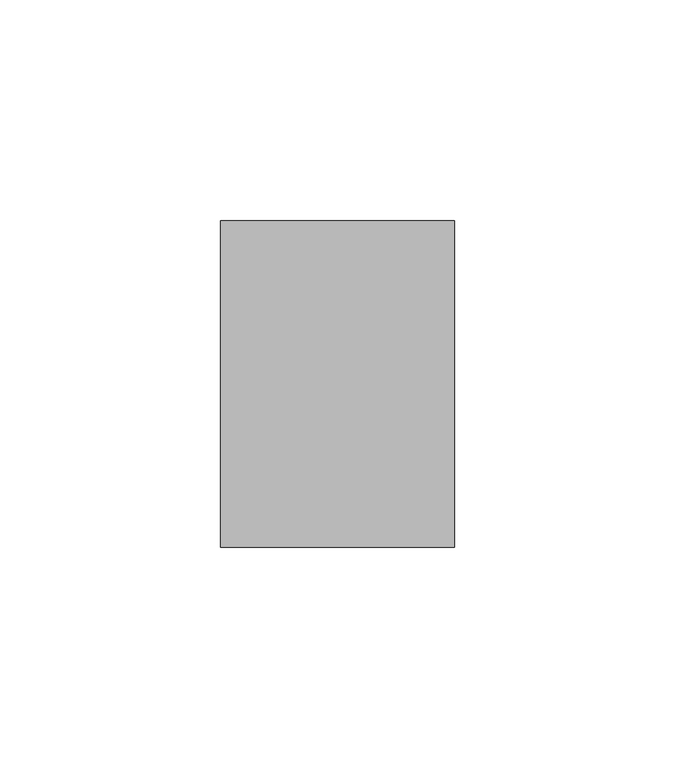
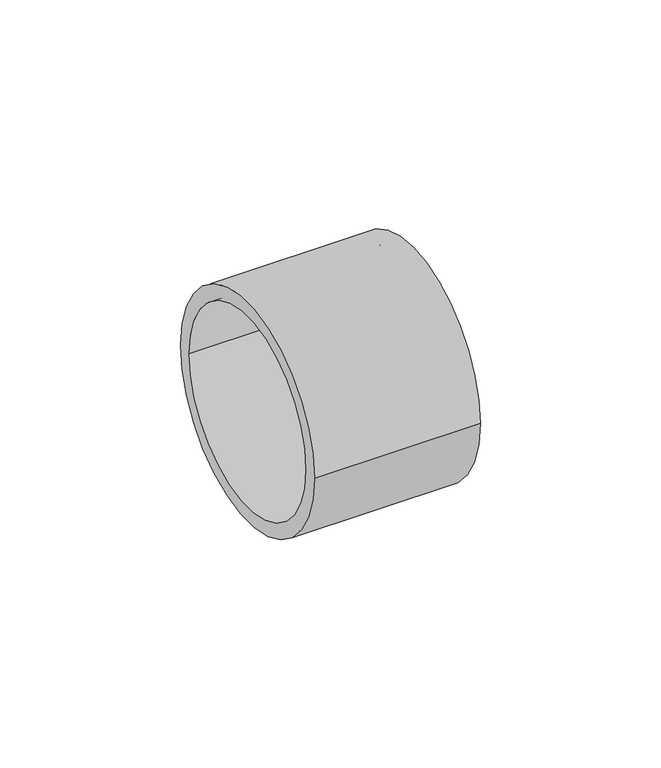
"""IFC4 building model written with IfcOpenShell, lengths in millimetres: pipe fitting geometry, RAUTITAN_Sleeve SDR 7,4 : RTI S SDR 7,4."""

import ifcopenshell
import ifcopenshell.guid

model = None  # the IFC model being written
_history = None  # IfcOwnerHistory: only IFC2X3 demands one
_inside = {}  # id of a spatial element -> (the spatial element, [elements in it])
_under = {}  # id of a project, library or spatial element -> (it, [spatial elements below it])
_declared = {}  # id of a project -> (the project, [libraries it declares])
_typed = {}  # id of a type object -> (the type object, [elements of that type])
_made_of = {}  # id of a material, layer set ... -> (it, [elements and type objects made of it])


def new_model(schema):
    """Start an empty IFC model of exactly this schema.

    Asked for "IFC4X3", IfcOpenShell would pick the latest addendum, in which some entities
    have other attributes; the version numbers below select the first issue.
    IFC2X3 requires an IfcOwnerHistory on every rooted entity: one is made here for all.
    """
    global model, _history
    if schema == "IFC4X3":
        model = ifcopenshell.file(schema_version=(4, 3, 0, 0))
    else:
        model = ifcopenshell.file(schema=schema)
    _inside.clear()
    _under.clear()
    _declared.clear()
    _typed.clear()
    _made_of.clear()
    _history = None
    if model.schema == "IFC2X3":
        org = make("IfcOrganization", Name="unknown")
        user = make(
            "IfcPersonAndOrganization",
            ThePerson=make("IfcPerson", FamilyName="unknown"),
            TheOrganization=org,
        )
        app = make(
            "IfcApplication",
            ApplicationDeveloper=org,
            Version="unknown",
            ApplicationFullName="unknown",
            ApplicationIdentifier="unknown",
        )
        _history = make(
            "IfcOwnerHistory",
            OwningUser=user,
            OwningApplication=app,
            ChangeAction="ADDED",
            CreationDate=0,
        )
    return model


def make(cls, **values):
    """One entity of the class cls with the attributes given. An attribute that is None is left unset."""
    return model.create_entity(
        cls, **{name: value for name, value in values.items() if value is not None}
    )


def rooted(cls, **values):
    """An entity with a GlobalId (a new one), such as an element, a storey or a relation."""
    return make(cls, GlobalId=ifcopenshell.guid.new(), OwnerHistory=_history, **values)


def si_unit(unit_type, name, prefix=None):
    """IfcSIUnit, for example si_unit("LENGTHUNIT", "METRE", prefix="MILLI")."""
    return make("IfcSIUnit", UnitType=unit_type, Prefix=prefix, Name=name)


def assignment(units):
    """IfcUnitAssignment: the units of a project."""
    return None if units is None else make("IfcUnitAssignment", Units=units)


def point(xyz):
    """IfcCartesianPoint."""
    return None if xyz is None else make("IfcCartesianPoint", Coordinates=xyz)


def direction(xyz):
    """IfcDirection."""
    return None if xyz is None else make("IfcDirection", DirectionRatios=xyz)


def frame(location, z_axis=None, x_axis=None):
    """IfcAxis2Placement3D, a coordinate frame: its origin and axes. An axis left out is left unset."""
    return make(
        "IfcAxis2Placement3D",
        Location=point(location),
        Axis=direction(z_axis),
        RefDirection=direction(x_axis),
    )


def frame_2d(location, x_axis=None):
    """IfcAxis2Placement2D, a coordinate frame in the plane: its origin and x axis."""
    return make(
        "IfcAxis2Placement2D", Location=point(location), RefDirection=direction(x_axis)
    )


def origin():
    """The frame at (0, 0, 0) with its axes left unset."""
    return frame((0.0, 0.0, 0.0))


def origin_2d():
    """The frame at (0, 0) in the plane with its x axis left unset."""
    return frame_2d((0.0, 0.0))


def place(relative_to, where):
    """IfcLocalPlacement: puts the frame where relative to a parent placement (None: the world)."""
    return make(
        "IfcLocalPlacement", PlacementRelTo=relative_to, RelativePlacement=where
    )


def context(
    kind, dimensions, precision=None, world=None, true_north=None, identifier=None
):
    """IfcGeometricRepresentationContext, for example the 3D "Model" context."""
    return make(
        "IfcGeometricRepresentationContext",
        ContextIdentifier=identifier,
        ContextType=kind,
        CoordinateSpaceDimension=dimensions,
        Precision=precision,
        WorldCoordinateSystem=world,
        TrueNorth=true_north,
    )


def project(units=None, contexts=None):
    """IfcProject with its units and contexts."""
    return rooted(
        "IfcProject",
        Name="project",
        RepresentationContexts=contexts,
        UnitsInContext=assignment(units),
    )


def spatial(cls, under=None, at=None, **own):
    """A site, building, storey or space (cls), placed at a placement, below another one or the project."""
    s = rooted(cls, ObjectPlacement=at, **own)
    if under is not None:
        _under.setdefault(under.id(), (under, []))[1].append(s)
    return s


def circle_curve(where, radius):
    """IfcCircle in the frame where."""
    return make("IfcCircle", Position=where, Radius=radius)


def trimmed(basis, trim1, trim2, sense, master):
    """IfcTrimmedCurve: the piece of a basis curve between two trims."""
    return make(
        "IfcTrimmedCurve",
        BasisCurve=basis,
        Trim1=trim1,
        Trim2=trim2,
        SenseAgreement=sense,
        MasterRepresentation=master,
    )


def segment(curve, same_sense, transition):
    """IfcCompositeCurveSegment."""
    return make(
        "IfcCompositeCurveSegment",
        Transition=transition,
        SameSense=same_sense,
        ParentCurve=curve,
    )


def composite_curve(segments, self_intersect=None):
    """IfcCompositeCurve: segments joined end to end."""
    return make("IfcCompositeCurve", Segments=segments, SelfIntersect=self_intersect)


def outline(outer, holes=None, kind="AREA"):
    """IfcArbitraryClosedProfileDef: a profile drawn as a closed curve; with holes, ...WithVoids."""
    if holes is None:
        return make("IfcArbitraryClosedProfileDef", ProfileType=kind, OuterCurve=outer)
    return make(
        "IfcArbitraryProfileDefWithVoids",
        ProfileType=kind,
        OuterCurve=outer,
        InnerCurves=holes,
    )


def extrude(swept, where, along, depth):
    """IfcExtrudedAreaSolid: the profile swept, set in the frame where, extruded along a direction by depth."""
    return make(
        "IfcExtrudedAreaSolid",
        SweptArea=swept,
        Position=where,
        ExtrudedDirection=direction(along),
        Depth=depth,
    )


def shape(context_of_items, identifier, shape_type, items):
    """IfcShapeRepresentation: the items that make up one representation, for example the "Body"."""
    return make(
        "IfcShapeRepresentation",
        ContextOfItems=context_of_items,
        RepresentationIdentifier=identifier,
        RepresentationType=shape_type,
        Items=items,
    )


def source(mapping_origin, context_of_items, identifier, shape_type, items):
    """IfcRepresentationMap: a shape defined once, which mapped items show again and again."""
    return make(
        "IfcRepresentationMap",
        MappingOrigin=mapping_origin,
        MappedRepresentation=shape(context_of_items, identifier, shape_type, items),
    )


def transform(
    local_origin,
    x_axis=None,
    y_axis=None,
    z_axis=None,
    scale=None,
    scale2=None,
    scale3=None,
    uniform=True,
):
    """IfcCartesianTransformationOperator3D, or its non-uniform kind. x_axis, y_axis, z_axis: its Axis1, 2, 3."""
    if uniform:
        return make(
            "IfcCartesianTransformationOperator3D",
            Axis1=direction(x_axis),
            Axis2=direction(y_axis),
            LocalOrigin=point(local_origin),
            Scale=scale,
            Axis3=direction(z_axis),
        )
    return make(
        "IfcCartesianTransformationOperator3DnonUniform",
        Axis1=direction(x_axis),
        Axis2=direction(y_axis),
        LocalOrigin=point(local_origin),
        Scale=scale,
        Axis3=direction(z_axis),
        Scale2=scale2,
        Scale3=scale3,
    )


def mapped(mapping_source, mapping_target):
    """IfcMappedItem: shows the shape of a source again, moved by a transform."""
    return make(
        "IfcMappedItem", MappingSource=mapping_source, MappingTarget=mapping_target
    )


def made_of(thing, what):
    """Note that an element or type object is made of a material, layer set ...; save() writes the relation."""
    if what is not None:
        _made_of.setdefault(what.id(), (what, []))[1].append(thing)
    return thing


def element(
    cls,
    number,
    at=None,
    inside=None,
    cuts=None,
    type_object=None,
    material=None,
    context=None,
    identifier="Body",
    shape_type=None,
    held_by="IfcProductDefinitionShape",
    body=None,
    shapes=None,
    **own,
):
    """One element of the class cls, such as IfcWall. Its Tag is "e" and its number.

    at: its placement. inside: the storey or other place that contains it. cuts: it is an
    opening in that element (IfcRelVoidsElement). A single representation is given by context,
    identifier, shape_type and body (its items); several are given by shapes. held_by: the class
    of the entity that holds the representations. save() writes the other relations.
    """
    e = rooted(cls, Tag="e%d" % number, ObjectPlacement=at, **own)
    if body is not None:
        shapes = [shape(context, identifier, shape_type, body)]
    if shapes is not None:
        e.Representation = make(held_by, Representations=shapes)
    if inside is not None:
        _inside.setdefault(inside.id(), (inside, []))[1].append(e)
    if cuts is not None:
        rooted(
            "IfcRelVoidsElement", RelatingBuildingElement=cuts, RelatedOpeningElement=e
        )
    if type_object is not None:
        _typed.setdefault(type_object.id(), (type_object, []))[1].append(e)
    return made_of(e, material)


def aggregate(whole, parts):
    """IfcRelAggregates: a whole, such as a stair, and the parts it consists of."""
    return rooted("IfcRelAggregates", RelatingObject=whole, RelatedObjects=parts)


def save(model, path):
    """Write the relations noted so far, then the file.

    IfcRelAggregates (storeys below a building ...), IfcRelContainedInSpatialStructure (elements
    in a storey), IfcRelDefinesByType, IfcRelAssociatesMaterial and IfcRelDeclares: one each for
    every whole, place, type object, material and project.
    """
    for whole, parts in _under.values():
        aggregate(whole, parts)
    for where, things in _inside.values():
        rooted(
            "IfcRelContainedInSpatialStructure",
            RelatedElements=things,
            RelatingStructure=where,
        )
    for kind, things in _typed.values():
        rooted("IfcRelDefinesByType", RelatedObjects=things, RelatingType=kind)
    for what, things in _made_of.values():
        rooted("IfcRelAssociatesMaterial", RelatedObjects=things, RelatingMaterial=what)
    for by, libraries in _declared.values():
        rooted("IfcRelDeclares", RelatingContext=by, RelatedDefinitions=libraries)
    model.write(path)


def pipe_fitting_b25a488c(model_context):
    return source(origin(), model_context, "Body", "SweptSolid", [
        extrude(outline(composite_curve([segment(trimmed(circle_curve(origin_2d(), 37.0), [point((-37.0, 0.0))], [point((37.0, 0.0))], False, "CARTESIAN"), True, "CONTINUOUS"), segment(trimmed(circle_curve(origin_2d(), 37.0), [point((37.0, 0.0))], [point((-37.0, 0.0))], False, "CARTESIAN"), True, "CONTINUOUS")], self_intersect=False), holes=[composite_curve([segment(trimmed(circle_curve(origin_2d(), 32.2), [point((-32.2, 0.0))], [point((32.2, 0.0))], True, "CARTESIAN"), True, "CONTINUOUS"), segment(trimmed(circle_curve(origin_2d(), 32.2), [point((32.2, 0.0))], [point((-32.2, 0.0))], True, "CARTESIAN"), True, "CONTINUOUS")], self_intersect=False)]), frame((0.0, 0.0, 0.0), z_axis=(1.0, 0.0, 0.0), x_axis=(0.0, 1.0, 0.0)), (0.0, 0.0, 1.0), 53.0),
    ])


if __name__ == "__main__":
    model = new_model("IFC4")
    model_context = context("Model", 3, world=origin())
    ifc_project = project(units=[si_unit("LENGTHUNIT", "METRE", prefix="MILLI")], contexts=[model_context])
    site = spatial("IfcSite", under=ifc_project)
    building = spatial("IfcBuilding", under=site)
    placement = place(None, origin())
    pipe_fitting_shape = pipe_fitting_b25a488c(model_context)
    element("IfcPipeFitting", 1, ObjectType="RAUTITAN_Sleeve SDR 7,4 : RTI S SDR 7,4", at=placement, inside=building, context=model_context, shape_type="MappedRepresentation", body=[
        mapped(pipe_fitting_shape, transform((0.0, 0.0, 0.0), x_axis=(1.0, 0.0, 0.0), y_axis=(0.0, 1.0, 0.0), z_axis=(0.0, 0.0, 1.0))),
    ])
    save(model, "model.ifc")
